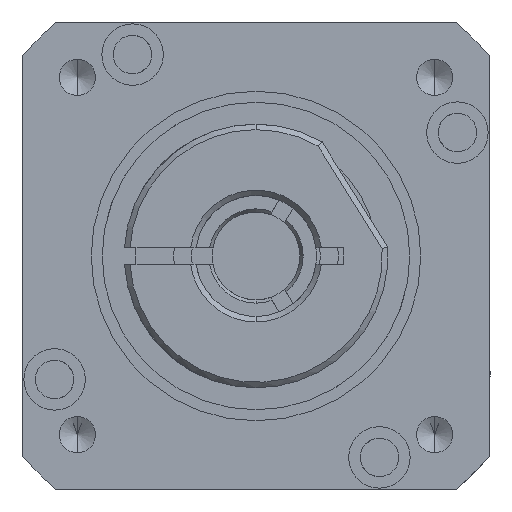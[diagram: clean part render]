
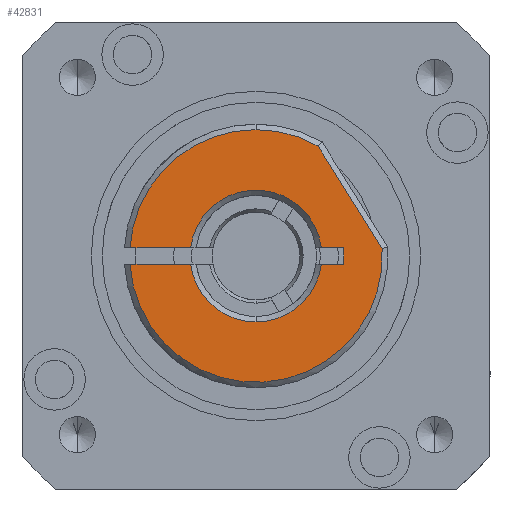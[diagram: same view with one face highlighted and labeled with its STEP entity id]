
A CAD part, front view. The second image highlights one B-rep face of the part: STEP entity #42831.
In plain terms, the highlighted planar face has unit normal (0, -1, 0).
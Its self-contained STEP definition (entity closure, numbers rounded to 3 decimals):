
#238 = VERTEX_POINT ( 'NONE', #9975 ) ;
#501 = AXIS2_PLACEMENT_3D ( 'NONE', #9390, #33057, #12844 ) ;
#529 = AXIS2_PLACEMENT_3D ( 'NONE', #21121, #558, #24484 ) ;
#558 = DIRECTION ( 'NONE',  ( 0., 1., 0. ) ) ;
#577 = ORIENTED_EDGE ( 'NONE', *, *, #40633, .T. ) ;
#798 = CARTESIAN_POINT ( 'NONE',  ( 0., 5.2, 0. ) ) ;
#1189 = DIRECTION ( 'NONE',  ( 0., 0., -1. ) ) ;
#1830 = ORIENTED_EDGE ( 'NONE', *, *, #19292, .T. ) ;
#3529 = CARTESIAN_POINT ( 'NONE',  ( 0., 5.2, 0. ) ) ;
#3679 = VECTOR ( 'NONE', #25592, 1000. ) ;
#3722 = LINE ( 'NONE', #21537, #21307 ) ;
#4306 = DIRECTION ( 'NONE',  ( 0., 0., -1. ) ) ;
#5745 = LINE ( 'NONE', #36870, #22805 ) ;
#6172 = CARTESIAN_POINT ( 'NONE',  ( 5.953, 5.2, -0.75 ) ) ;
#6730 = EDGE_CURVE ( 'NONE', #42093, #25339, #3722, .T. ) ;
#6998 = DIRECTION ( 'NONE',  ( 0., 0., 1. ) ) ;
#7060 = CARTESIAN_POINT ( 'NONE',  ( -5.953, 5.2, -0.75 ) ) ;
#7090 = EDGE_CURVE ( 'NONE', #23064, #42244, #18104, .T. ) ;
#7725 = CARTESIAN_POINT ( 'NONE',  ( -5.953, 5.2, 0.75 ) ) ;
#7885 = VECTOR ( 'NONE', #34020, 1000. ) ;
#9390 = CARTESIAN_POINT ( 'NONE',  ( 0., 5.2, 0. ) ) ;
#9975 = CARTESIAN_POINT ( 'NONE',  ( 0., 5.2, -6. ) ) ;
#11046 = DIRECTION ( 'NONE',  ( -1., 0., 0. ) ) ;
#11313 = ORIENTED_EDGE ( 'NONE', *, *, #19639, .T. ) ;
#12165 = CIRCLE ( 'NONE', #36172, 11.5 ) ;
#12844 = DIRECTION ( 'NONE',  ( 0., 0., 1. ) ) ;
#13199 = VERTEX_POINT ( 'NONE', #43882 ) ;
#14896 = FACE_OUTER_BOUND ( 'NONE', #37717, .T. ) ;
#15629 = ORIENTED_EDGE ( 'NONE', *, *, #7090, .T. ) ;
#16383 = CARTESIAN_POINT ( 'NONE',  ( 8., 5.2, 0.75 ) ) ;
#17920 = ORIENTED_EDGE ( 'NONE', *, *, #6730, .T. ) ;
#17947 = ORIENTED_EDGE ( 'NONE', *, *, #21001, .T. ) ;
#18087 = DIRECTION ( 'NONE',  ( 0., -1., 0. ) ) ;
#18104 = CIRCLE ( 'NONE', #22038, 11.5 ) ;
#18257 = CARTESIAN_POINT ( 'NONE',  ( 8., 5.2, -0.75 ) ) ;
#18370 = CARTESIAN_POINT ( 'NONE',  ( -11.476, 5.2, -0.75 ) ) ;
#18817 = CARTESIAN_POINT ( 'NONE',  ( 0., 5.2, 0. ) ) ;
#19292 = EDGE_CURVE ( 'NONE', #34460, #23064, #12165, .T. ) ;
#19639 = EDGE_CURVE ( 'NONE', #36387, #34460, #5745, .T. ) ;
#21001 = EDGE_CURVE ( 'NONE', #25339, #238, #32952, .T. ) ;
#21121 = CARTESIAN_POINT ( 'NONE',  ( 0., 5.2, 0. ) ) ;
#21307 = VECTOR ( 'NONE', #11046, 1000. ) ;
#21537 = CARTESIAN_POINT ( 'NONE',  ( 8., 5.2, -0.75 ) ) ;
#21685 = AXIS2_PLACEMENT_3D ( 'NONE', #18817, #42404, #22224 ) ;
#21730 = DIRECTION ( 'NONE',  ( 0., -1., 0. ) ) ;
#21856 = LINE ( 'NONE', #38911, #3679 ) ;
#22038 = AXIS2_PLACEMENT_3D ( 'NONE', #3529, #27314, #6998 ) ;
#22224 = DIRECTION ( 'NONE',  ( 0., 0., -1. ) ) ;
#22805 = VECTOR ( 'NONE', #23518, 1000. ) ;
#23064 = VERTEX_POINT ( 'NONE', #36366 ) ;
#23454 = CIRCLE ( 'NONE', #529, 6. ) ;
#23518 = DIRECTION ( 'NONE',  ( -0.53, 0., 0.848 ) ) ;
#24484 = DIRECTION ( 'NONE',  ( 0., 0., -1. ) ) ;
#24704 = DIRECTION ( 'NONE',  ( 0., 1., 0. ) ) ;
#25339 = VERTEX_POINT ( 'NONE', #6172 ) ;
#25592 = DIRECTION ( 'NONE',  ( 0., 0., -1. ) ) ;
#25855 = ORIENTED_EDGE ( 'NONE', *, *, #34366, .T. ) ;
#26186 = DIRECTION ( 'NONE',  ( 1., 0., 0. ) ) ;
#26605 = CARTESIAN_POINT ( 'NONE',  ( -14.792, 5.2, 0.75 ) ) ;
#26648 = EDGE_CURVE ( 'NONE', #40263, #36711, #34880, .T. ) ;
#26972 = VERTEX_POINT ( 'NONE', #7725 ) ;
#27133 = CARTESIAN_POINT ( 'NONE',  ( 8., 5.2, -0.75 ) ) ;
#27314 = DIRECTION ( 'NONE',  ( 0., -1., 0. ) ) ;
#28109 = CARTESIAN_POINT ( 'NONE',  ( 5.651, 5.2, 10.016 ) ) ;
#28292 = PLANE ( 'NONE',  #39565 ) ;
#28927 = VERTEX_POINT ( 'NONE', #16383 ) ;
#29803 = VECTOR ( 'NONE', #26186, 1000. ) ;
#30323 = CIRCLE ( 'NONE', #34591, 6. ) ;
#30836 = LINE ( 'NONE', #39097, #29803 ) ;
#31481 = CIRCLE ( 'NONE', #501, 11.5 ) ;
#32361 = ORIENTED_EDGE ( 'NONE', *, *, #38458, .T. ) ;
#32952 = CIRCLE ( 'NONE', #21685, 6. ) ;
#33057 = DIRECTION ( 'NONE',  ( 0., -1., 0. ) ) ;
#34020 = DIRECTION ( 'NONE',  ( -1., 0., 0. ) ) ;
#34361 = VECTOR ( 'NONE', #43570, 1000. ) ;
#34366 = EDGE_CURVE ( 'NONE', #238, #40263, #23454, .T. ) ;
#34460 = VERTEX_POINT ( 'NONE', #28109 ) ;
#34591 = AXIS2_PLACEMENT_3D ( 'NONE', #798, #24704, #4306 ) ;
#34880 = LINE ( 'NONE', #27133, #7885 ) ;
#35098 = CARTESIAN_POINT ( 'NONE',  ( -11.476, 5.2, 0.75 ) ) ;
#35336 = EDGE_CURVE ( 'NONE', #42244, #26972, #43395, .T. ) ;
#36172 = AXIS2_PLACEMENT_3D ( 'NONE', #38227, #18087, #41651 ) ;
#36366 = CARTESIAN_POINT ( 'NONE',  ( 0., 5.2, 11.5 ) ) ;
#36387 = VERTEX_POINT ( 'NONE', #39869 ) ;
#36711 = VERTEX_POINT ( 'NONE', #18370 ) ;
#36870 = CARTESIAN_POINT ( 'NONE',  ( 11.479, 5.2, 0.689 ) ) ;
#36995 = EDGE_CURVE ( 'NONE', #26972, #13199, #30323, .T. ) ;
#37287 = ORIENTED_EDGE ( 'NONE', *, *, #38835, .T. ) ;
#37717 = EDGE_LOOP ( 'NONE', ( #40179, #40064, #32361, #37287, #17920, #17947, #25855, #41286, #577, #11313, #1830, #15629 ) ) ;
#38227 = CARTESIAN_POINT ( 'NONE',  ( 0., 5.2, 0. ) ) ;
#38458 = EDGE_CURVE ( 'NONE', #13199, #28927, #30836, .T. ) ;
#38835 = EDGE_CURVE ( 'NONE', #28927, #42093, #21856, .T. ) ;
#38911 = CARTESIAN_POINT ( 'NONE',  ( 8., 5.2, 0. ) ) ;
#39097 = CARTESIAN_POINT ( 'NONE',  ( -14.792, 5.2, 0.75 ) ) ;
#39565 = AXIS2_PLACEMENT_3D ( 'NONE', #41888, #21730, #1189 ) ;
#39869 = CARTESIAN_POINT ( 'NONE',  ( 11.479, 5.2, 0.689 ) ) ;
#40064 = ORIENTED_EDGE ( 'NONE', *, *, #36995, .T. ) ;
#40179 = ORIENTED_EDGE ( 'NONE', *, *, #35336, .T. ) ;
#40263 = VERTEX_POINT ( 'NONE', #7060 ) ;
#40633 = EDGE_CURVE ( 'NONE', #36711, #36387, #31481, .T. ) ;
#41286 = ORIENTED_EDGE ( 'NONE', *, *, #26648, .T. ) ;
#41651 = DIRECTION ( 'NONE',  ( 0., 0., 1. ) ) ;
#41888 = CARTESIAN_POINT ( 'NONE',  ( 5.5, 5.2, 0. ) ) ;
#42093 = VERTEX_POINT ( 'NONE', #18257 ) ;
#42244 = VERTEX_POINT ( 'NONE', #35098 ) ;
#42404 = DIRECTION ( 'NONE',  ( 0., 1., 0. ) ) ;
#42831 = ADVANCED_FACE ( 'NONE', ( #14896 ), #28292, .T. ) ;
#43395 = LINE ( 'NONE', #26605, #34361 ) ;
#43570 = DIRECTION ( 'NONE',  ( 1., 0., 0. ) ) ;
#43882 = CARTESIAN_POINT ( 'NONE',  ( 5.953, 5.2, 0.75 ) ) ;
